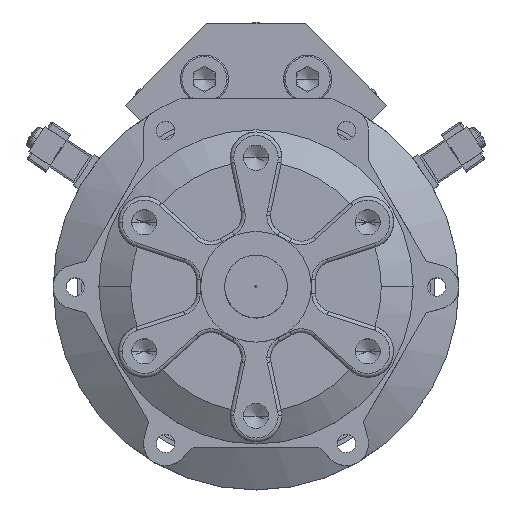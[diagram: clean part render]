
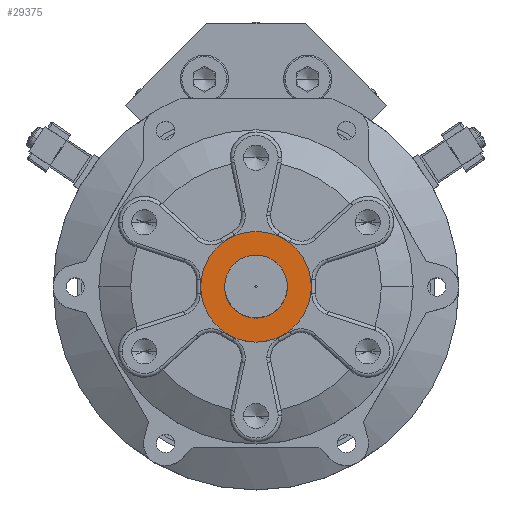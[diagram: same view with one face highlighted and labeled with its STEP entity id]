
A CAD part, top view. The second image highlights one B-rep face of the part: STEP entity #29375.
In plain terms, the highlighted planar face has unit normal (0, 0, 1).
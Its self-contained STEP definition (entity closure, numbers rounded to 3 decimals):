
#38 = DIRECTION ( 'NONE',  ( 0., 0., 1. ) ) ;
#58 = CARTESIAN_POINT ( 'NONE',  ( 15., 0., 0. ) ) ;
#2220 = ORIENTED_EDGE ( 'NONE', *, *, #14854, .T. ) ;
#2923 = DIRECTION ( 'NONE',  ( 0., 0., 1. ) ) ;
#3142 = DIRECTION ( 'NONE',  ( 0., 0., 1. ) ) ;
#3163 = CIRCLE ( 'NONE', #24870, 15. ) ;
#4722 = CIRCLE ( 'NONE', #19304, 15. ) ;
#5129 = EDGE_CURVE ( 'NONE', #23543, #14966, #24834, .T. ) ;
#5191 = AXIS2_PLACEMENT_3D ( 'NONE', #33254, #9387, #6643 ) ;
#5283 = ORIENTED_EDGE ( 'NONE', *, *, #16941, .F. ) ;
#5670 = DIRECTION ( 'NONE',  ( 1., 0., 0. ) ) ;
#5818 = AXIS2_PLACEMENT_3D ( 'NONE', #13503, #38, #7780 ) ;
#6643 = DIRECTION ( 'NONE',  ( -1., 0., 0. ) ) ;
#7483 = CARTESIAN_POINT ( 'NONE',  ( -8.5, 0., 0. ) ) ;
#7780 = DIRECTION ( 'NONE',  ( 1., 0., 0. ) ) ;
#7789 = FACE_OUTER_BOUND ( 'NONE', #28617, .T. ) ;
#9387 = DIRECTION ( 'NONE',  ( 0., 0., -1. ) ) ;
#10415 = DIRECTION ( 'NONE',  ( 1., 0., 0. ) ) ;
#13503 = CARTESIAN_POINT ( 'NONE',  ( 0., 0., 0. ) ) ;
#13631 = CIRCLE ( 'NONE', #24266, 8.5 ) ;
#14391 = DIRECTION ( 'NONE',  ( 1., 0., 0. ) ) ;
#14854 = EDGE_CURVE ( 'NONE', #16479, #21955, #4722, .T. ) ;
#14966 = VERTEX_POINT ( 'NONE', #17606 ) ;
#16479 = VERTEX_POINT ( 'NONE', #58 ) ;
#16920 = CARTESIAN_POINT ( 'NONE',  ( 0., 0., 0. ) ) ;
#16941 = EDGE_CURVE ( 'NONE', #14966, #23543, #13631, .T. ) ;
#17606 = CARTESIAN_POINT ( 'NONE',  ( 8.5, 0., 0. ) ) ;
#18700 = CARTESIAN_POINT ( 'NONE',  ( 0., 0., 0. ) ) ;
#18793 = CARTESIAN_POINT ( 'NONE',  ( 0., 0., 0. ) ) ;
#19304 = AXIS2_PLACEMENT_3D ( 'NONE', #16920, #24924, #14391 ) ;
#19832 = EDGE_CURVE ( 'NONE', #21955, #16479, #3163, .T. ) ;
#20990 = FACE_BOUND ( 'NONE', #30545, .T. ) ;
#21101 = ORIENTED_EDGE ( 'NONE', *, *, #5129, .F. ) ;
#21955 = VERTEX_POINT ( 'NONE', #31002 ) ;
#23543 = VERTEX_POINT ( 'NONE', #7483 ) ;
#24266 = AXIS2_PLACEMENT_3D ( 'NONE', #18700, #2923, #10415 ) ;
#24834 = CIRCLE ( 'NONE', #5818, 8.5 ) ;
#24870 = AXIS2_PLACEMENT_3D ( 'NONE', #18793, #3142, #5670 ) ;
#24924 = DIRECTION ( 'NONE',  ( 0., 0., 1. ) ) ;
#28617 = EDGE_LOOP ( 'NONE', ( #2220, #33970 ) ) ;
#29375 = ADVANCED_FACE ( 'NONE', ( #20990, #7789 ), #32688, .F. ) ;
#30545 = EDGE_LOOP ( 'NONE', ( #5283, #21101 ) ) ;
#31002 = CARTESIAN_POINT ( 'NONE',  ( -15., 0., 0. ) ) ;
#32688 = PLANE ( 'NONE',  #5191 ) ;
#33254 = CARTESIAN_POINT ( 'NONE',  ( 0., 8.5, 0. ) ) ;
#33970 = ORIENTED_EDGE ( 'NONE', *, *, #19832, .T. ) ;
